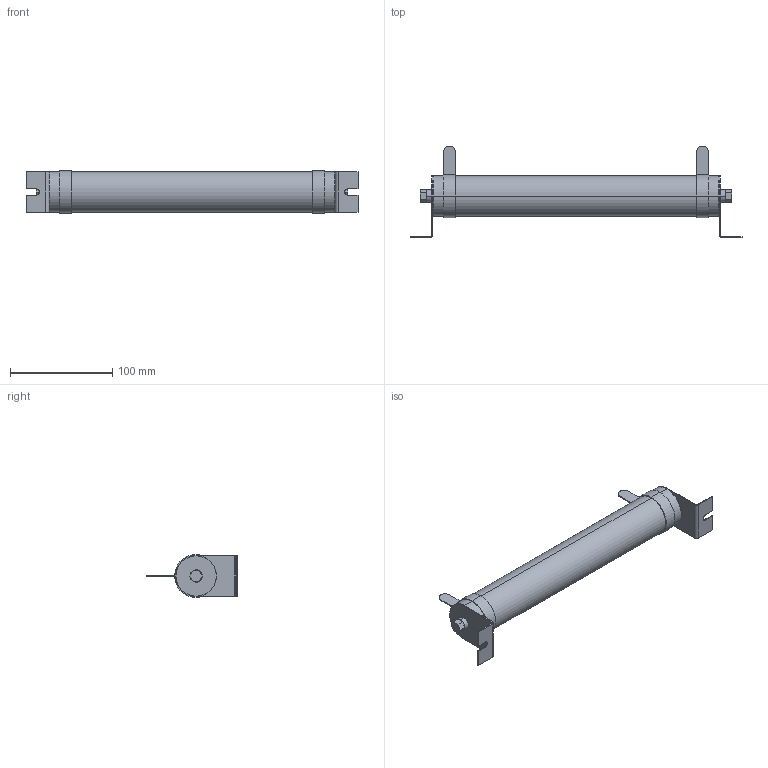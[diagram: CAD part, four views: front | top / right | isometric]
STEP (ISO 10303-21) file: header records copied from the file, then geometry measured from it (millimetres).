
FILE_DESCRIPTION (( 'STEP AP203' ), '1' );
FILE_NAME ('IRT-80-400.STEP', '2022-11-16T11:55:54', ( '' ), ( '' ), 'SwSTEP 2.0', 'SolidWorks 2018', '' );
FILE_SCHEMA (( 'CONFIG_CONTROL_DESIGN' ));
Length unit declared in the file: millimetre
Products named in the file (1): IRT-80-400
Bounding box: 325 x 90 x 42 mm (x, y, z)
Volume: 363917.7 mm3; surface area: 48250.9 mm2
Topology: 1 solids, 1 shells, 90 faces, 210 edges, 132 vertices
Faces by surface type: plane 56, cylinder 34
Entity records: 2639 total; most frequent: DIRECTION 472, CARTESIAN_POINT 433, ORIENTED_EDGE 420, EDGE_CURVE 210, AXIS2_PLACEMENT_3D 171, VERTEX_POINT 132, VECTOR 130, LINE 130
